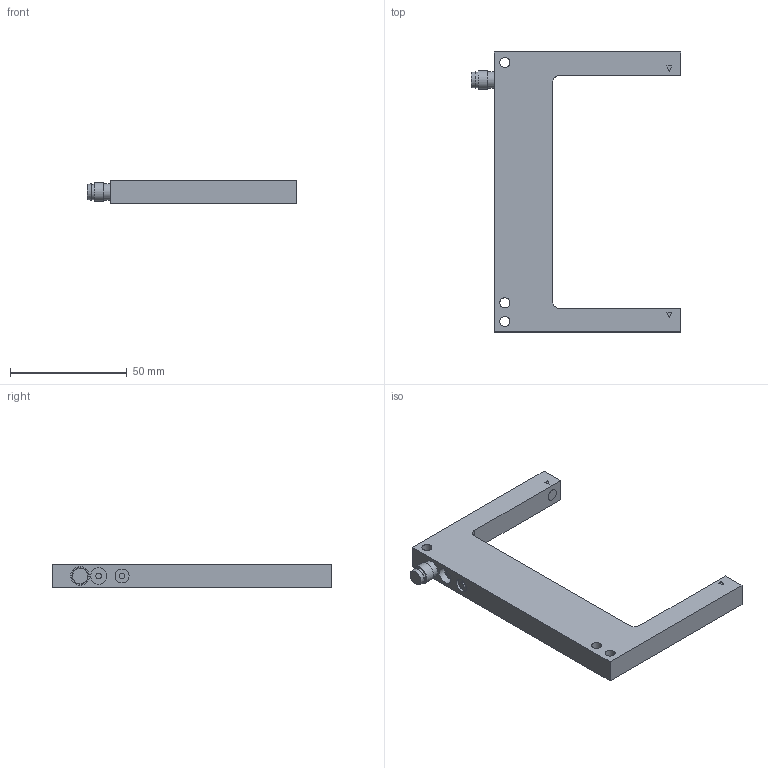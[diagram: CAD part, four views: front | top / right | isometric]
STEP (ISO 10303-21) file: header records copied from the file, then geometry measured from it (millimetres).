
FILE_DESCRIPTION(/* description */ (''),/* implementation_level */ '2;1');
FILE_NAME(/* name */ '3DCAD_GS04B_x_1_100_M8_3.stp',/* time_stamp */ '2021-04-26T09:58:32+02:00',/* author */ ('CC2'),/* organization */ ('Leuze electronic'),/* preprocessor_version */ 'ST-DEVELOPER v16',/* originating_system */ 'SIEMENS PLM Software NX 11.0',/* authorisation */ '');
FILE_SCHEMA (('AUTOMOTIVE_DESIGN { 1 0 10303 214 3 1 1 1 }'));
Length unit declared in the file: millimetre
Products named in the file (1): 19-103284_00_1-3DCAD_GS04B_x_1_100_M8_3
Bounding box: 90 x 120 x 10 mm (x, y, z)
Volume: 40871.1 mm3; surface area: 13996.1 mm2
Topology: 1 solids, 2 shells, 46 faces, 90 edges, 60 vertices
Faces by surface type: plane 30, cylinder 15, cone 1
Full cylindrical faces by diameter (mm): 2.5 x2, 3 x1, 4.3 x3, 5 x2, 6 x1, 6.5 x1, 7 x2, 8 x1
Entity records: 1150 total; most frequent: DIRECTION 202, CARTESIAN_POINT 183, ORIENTED_EDGE 152, AXIS2_PLACEMENT_3D 79, EDGE_LOOP 78, EDGE_CURVE 76, VERTEX_POINT 60, FACE_BOUND 56
